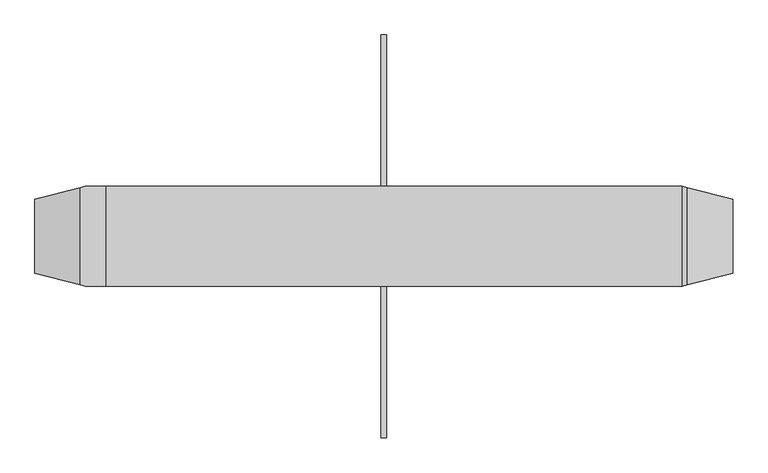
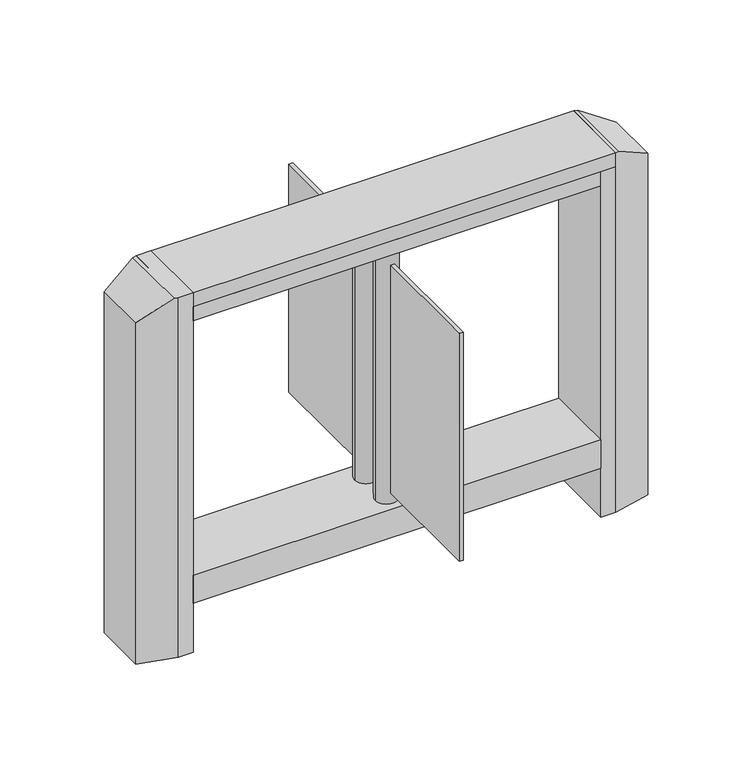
"""IFC4 building model written with IfcOpenShell, lengths in millimetres: proxy geometry, Gotschlich_Турникет_Axioma DF_Центральный_Модуль_R18 : Axioma DF LW650-650."""

from ifc_helpers import new_model, si_unit, point, frame, frame_2d, origin, origin_with_axes, place, context, project, spatial, polyline, circle_curve, trimmed, segment, composite_curve, outline, extrude, faceted_brep, source, transform, mapped, element, save


def mechanical_equipment_f0adfb8c(model_context):
    return source(origin(), model_context, "Body", "SolidModel", [
        extrude(outline(polyline([(5.0, 398.0201137), (5.0, 48.0201137), (-5.0, 48.0201137), (-5.0, 398.0201137), (5.0, 398.0201137)])), frame((0.0, 0.0, 250.0), z_axis=(0.0, 0.0, 1.0), x_axis=(1.0, 0.0, 0.0)), (0.0, 0.0, 1.0), 650.0),
        extrude(outline(composite_curve([segment(trimmed(circle_curve(frame_2d((0.0, 48.0201137)), 30.0), [point((30.0, 48.0201137))], [point((-30.0, 48.0201137))], False, "CARTESIAN"), True, "CONTINUOUS"), segment(trimmed(circle_curve(frame_2d((0.0, 48.0201137)), 30.0), [point((-30.0, 48.0201137))], [point((30.0, 48.0201137))], False, "CARTESIAN"), True, "CONTINUOUS")], self_intersect=False)), frame((0.0, 0.0, 220.0), z_axis=(0.0, 0.0, 1.0), x_axis=(1.0, 0.0, 0.0)), (0.0, 0.0, 1.0), 725.0),
        extrude(outline(polyline([(5.0, -48.0201137), (5.0, -398.0201137), (-5.0, -398.0201137), (-5.0, -48.0201137), (5.0, -48.0201137)])), frame((0.0, 0.0, 250.0), z_axis=(0.0, 0.0, 1.0), x_axis=(1.0, 0.0, 0.0)), (0.0, 0.0, 1.0), 650.0),
        extrude(outline(composite_curve([segment(trimmed(circle_curve(frame_2d((0.0, -48.0201137)), 30.0), [point((30.0, -48.0201137))], [point((-30.0, -48.0201137))], False, "CARTESIAN"), True, "CONTINUOUS"), segment(trimmed(circle_curve(frame_2d((0.0, -48.0201137)), 30.0), [point((-30.0, -48.0201137))], [point((30.0, -48.0201137))], False, "CARTESIAN"), True, "CONTINUOUS")], self_intersect=False)), frame((0.0, 0.0, 220.0), z_axis=(0.0, 0.0, 1.0), x_axis=(1.0, 0.0, 0.0)), (0.0, 0.0, 1.0), 725.0),
        faceted_brep([(-550.0, -98.5, 0.0), (-550.0, -98.5, 1025.0), (-590.1, -98.5, 1025.0), (-590.1, -98.5, 0.0), (-550.0, 98.5, 1025.0), (-550.0, 98.5, 0.0), (-590.1, 98.5, 0.0), (-590.1, 98.5, 1025.0), (-690.1, -73.5, 0.0), (-690.1, 73.5, 0.0), (-600.1, 96.0, 1025.0), (-600.1, -96.0, 1025.0), (-690.1, 73.5, 973.0384758), (-690.1, -73.5, 973.0384758)], [[[0, 1, 2, 3]], [[4, 5, 6, 7]], [[5, 0, 3, 8, 9, 6]], [[1, 0, 5, 4]], [[1, 4, 7, 10, 11, 2]], [[11, 10, 12, 13]], [[13, 12, 9, 8]], [[7, 6, 9, 12, 10]], [[3, 2, 11, 13, 8]]]),
        faceted_brep([(690.1, 73.5, 973.0384758), (690.1, -73.5, 973.0384758), (690.1, -73.5, 0.0), (690.1, 73.5, 0.0), (600.1, 96.0, 1025.0), (600.1, -96.0, 1025.0), (590.1, 98.5, 1025.0), (590.1, -98.5, 1025.0), (590.1, 98.5, 0.0), (590.1, -98.5, 0.0)], [[[0, 1, 2, 3]], [[1, 0, 4, 5]], [[6, 7, 5, 4]], [[7, 6, 8, 9]], [[9, 8, 3, 2]], [[2, 1, 5, 7, 9]], [[0, 3, 8, 6, 4]]]),
        extrude(outline(polyline([(-550.0, 98.5), (550.0, 98.5), (550.0, -98.5), (-550.0, -98.5), (-550.0, 98.5)])), frame((0.0, 0.0, 140.0), z_axis=(0.0, 0.0, 1.0), x_axis=(1.0, 0.0, 0.0)), (0.0, 0.0, 1.0), 80.0),
        extrude(outline(polyline([(-590.1, 98.5), (-550.0, 98.5), (-550.0, -98.5), (-590.1, -98.5), (-590.1, 98.5)])), origin_with_axes(), (0.0, 0.0, 1.0), 985.0),
        extrude(outline(polyline([(550.0, 98.5), (590.1, 98.5), (590.1, -98.5), (550.0, -98.5), (550.0, 98.5)])), origin_with_axes(), (0.0, 0.0, 1.0), 985.0),
        extrude(outline(polyline([(-550.0, 98.5), (550.0, 98.5), (550.0, -98.5), (-550.0, -98.5), (-550.0, 98.5)])), frame((0.0, 0.0, 945.0), z_axis=(0.0, 0.0, 1.0), x_axis=(1.0, 0.0, 0.0)), (0.0, 0.0, 1.0), 40.0),
        extrude(outline(polyline([(-590.1, 98.5), (590.1, 98.5), (590.1, -98.5), (-590.1, -98.5), (-590.1, 98.5)])), frame((0.0, 0.0, 985.0), z_axis=(0.0, 0.0, 1.0), x_axis=(1.0, 0.0, 0.0)), (0.0, 0.0, 1.0), 40.0),
    ])


if __name__ == "__main__":
    model = new_model("IFC4")
    model_context = context("Model", 3, world=origin())
    ifc_project = project(units=[si_unit("LENGTHUNIT", "METRE", prefix="MILLI")], contexts=[model_context])
    site = spatial("IfcSite", under=ifc_project)
    building = spatial("IfcBuilding", under=site)
    placement = place(None, origin())
    mechanical_equipment_shape = mechanical_equipment_f0adfb8c(model_context)
    element("IfcBuildingElementProxy", 1, Name="Gotschlich_Турникет_Axioma DF_Центральный_Модуль_R18 : Axioma DF LW650-650", ObjectType="Gotschlich_Турникет_Axioma DF_Центральный_Модуль_R18 : Axioma DF LW650-650", at=placement, inside=building, context=model_context, shape_type="MappedRepresentation", body=[
        mapped(mechanical_equipment_shape, transform((0.0, 0.0, 0.0), x_axis=(1.0, 0.0, 0.0), y_axis=(0.0, 1.0, 0.0), z_axis=(0.0, 0.0, 1.0))),
    ])
    save(model, "model.ifc")
